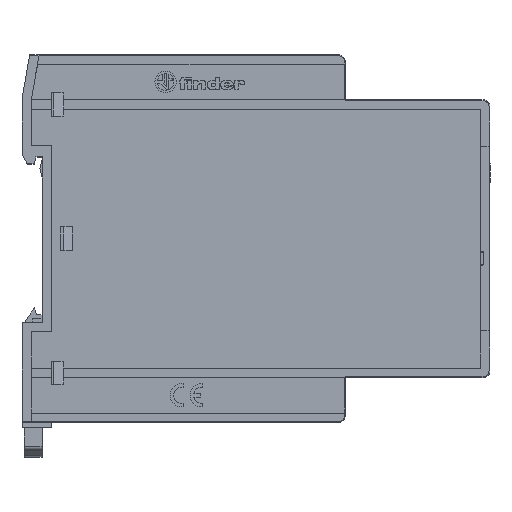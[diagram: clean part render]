
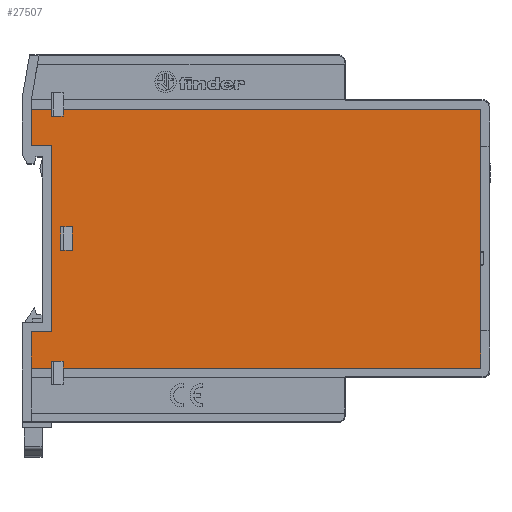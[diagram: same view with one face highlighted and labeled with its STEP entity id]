
A CAD part, top view. The second image highlights one B-rep face of the part: STEP entity #27507.
In plain terms, the highlighted planar face has unit normal (0, 0, 1).
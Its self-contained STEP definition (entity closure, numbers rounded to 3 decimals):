
#1403=ORIENTED_EDGE('',*,*,#7820,.F.);
#1404=ORIENTED_EDGE('',*,*,#7821,.T.);
#1405=ORIENTED_EDGE('',*,*,#7822,.F.);
#1406=ORIENTED_EDGE('',*,*,#7823,.T.);
#1407=ORIENTED_EDGE('',*,*,#7824,.F.);
#1408=ORIENTED_EDGE('',*,*,#7825,.T.);
#1409=ORIENTED_EDGE('',*,*,#7826,.F.);
#1410=ORIENTED_EDGE('',*,*,#7827,.T.);
#1411=ORIENTED_EDGE('',*,*,#7828,.F.);
#1412=ORIENTED_EDGE('',*,*,#7829,.T.);
#1413=ORIENTED_EDGE('',*,*,#7830,.F.);
#1414=ORIENTED_EDGE('',*,*,#7831,.T.);
#1415=ORIENTED_EDGE('',*,*,#7817,.T.);
#1416=ORIENTED_EDGE('',*,*,#7832,.T.);
#1417=ORIENTED_EDGE('',*,*,#7833,.F.);
#1418=ORIENTED_EDGE('',*,*,#7834,.F.);
#1419=ORIENTED_EDGE('',*,*,#7835,.T.);
#1420=ORIENTED_EDGE('',*,*,#7836,.F.);
#1421=ORIENTED_EDGE('',*,*,#7837,.F.);
#1422=ORIENTED_EDGE('',*,*,#7838,.F.);
#7817=EDGE_CURVE('',#12337,#12336,#15909,.T.);
#7820=EDGE_CURVE('',#12339,#12340,#15912,.T.);
#7821=EDGE_CURVE('',#12339,#12341,#15913,.T.);
#7822=EDGE_CURVE('',#12342,#12341,#15914,.T.);
#7823=EDGE_CURVE('',#12342,#12343,#15915,.T.);
#7824=EDGE_CURVE('',#12344,#12343,#15916,.T.);
#7825=EDGE_CURVE('',#12344,#12345,#15917,.T.);
#7826=EDGE_CURVE('',#12346,#12345,#15918,.T.);
#7827=EDGE_CURVE('',#12346,#12347,#15919,.T.);
#7828=EDGE_CURVE('',#12348,#12347,#15920,.T.);
#7829=EDGE_CURVE('',#12348,#12349,#15921,.T.);
#7830=EDGE_CURVE('',#12350,#12349,#15922,.T.);
#7831=EDGE_CURVE('',#12350,#12337,#15923,.T.);
#7832=EDGE_CURVE('',#12336,#12351,#15924,.T.);
#7833=EDGE_CURVE('',#12352,#12351,#15925,.T.);
#7834=EDGE_CURVE('',#12340,#12352,#15926,.T.);
#7835=EDGE_CURVE('',#12353,#12354,#15927,.T.);
#7836=EDGE_CURVE('',#12355,#12354,#15928,.T.);
#7837=EDGE_CURVE('',#12356,#12355,#15929,.T.);
#7838=EDGE_CURVE('',#12353,#12356,#15930,.T.);
#12336=VERTEX_POINT('',#39380);
#12337=VERTEX_POINT('',#39382);
#12339=VERTEX_POINT('',#39388);
#12340=VERTEX_POINT('',#39389);
#12341=VERTEX_POINT('',#39391);
#12342=VERTEX_POINT('',#39393);
#12343=VERTEX_POINT('',#39395);
#12344=VERTEX_POINT('',#39397);
#12345=VERTEX_POINT('',#39399);
#12346=VERTEX_POINT('',#39401);
#12347=VERTEX_POINT('',#39403);
#12348=VERTEX_POINT('',#39405);
#12349=VERTEX_POINT('',#39407);
#12350=VERTEX_POINT('',#39409);
#12351=VERTEX_POINT('',#39412);
#12352=VERTEX_POINT('',#39414);
#12353=VERTEX_POINT('',#39417);
#12354=VERTEX_POINT('',#39418);
#12355=VERTEX_POINT('',#39420);
#12356=VERTEX_POINT('',#39422);
#15909=LINE('',#39381,#19986);
#15912=LINE('',#39387,#19989);
#15913=LINE('',#39390,#19990);
#15914=LINE('',#39392,#19991);
#15915=LINE('',#39394,#19992);
#15916=LINE('',#39396,#19993);
#15917=LINE('',#39398,#19994);
#15918=LINE('',#39400,#19995);
#15919=LINE('',#39402,#19996);
#15920=LINE('',#39404,#19997);
#15921=LINE('',#39406,#19998);
#15922=LINE('',#39408,#19999);
#15923=LINE('',#39410,#20000);
#15924=LINE('',#39411,#20001);
#15925=LINE('',#39413,#20002);
#15926=LINE('',#39415,#20003);
#15927=LINE('',#39416,#20004);
#15928=LINE('',#39419,#20005);
#15929=LINE('',#39421,#20006);
#15930=LINE('',#39423,#20007);
#19986=VECTOR('',#31850,1000.);
#19989=VECTOR('',#31855,1000.);
#19990=VECTOR('',#31856,1000.);
#19991=VECTOR('',#31857,1000.);
#19992=VECTOR('',#31858,1000.);
#19993=VECTOR('',#31859,1000.);
#19994=VECTOR('',#31860,1000.);
#19995=VECTOR('',#31861,1000.);
#19996=VECTOR('',#31862,1000.);
#19997=VECTOR('',#31863,1000.);
#19998=VECTOR('',#31864,1000.);
#19999=VECTOR('',#31865,1000.);
#20000=VECTOR('',#31866,1000.);
#20001=VECTOR('',#31867,1000.);
#20002=VECTOR('',#31868,1000.);
#20003=VECTOR('',#31869,1000.);
#20004=VECTOR('',#31870,1000.);
#20005=VECTOR('',#31871,1000.);
#20006=VECTOR('',#31872,1000.);
#20007=VECTOR('',#31873,1000.);
#23856=EDGE_LOOP('',(#1403,#1404,#1405,#1406,#1407,#1408,#1409,#1410,#1411,
#1412,#1413,#1414,#1415,#1416,#1417,#1418));
#23857=EDGE_LOOP('',(#1419,#1420,#1421,#1422));
#25162=FACE_BOUND('',#23856,.T.);
#25163=FACE_BOUND('',#23857,.T.);
#26447=PLANE('',#29682);
#27507=ADVANCED_FACE('',(#25162,#25163),#26447,.T.);
#29682=AXIS2_PLACEMENT_3D('',#39386,#31853,#31854);
#31850=DIRECTION('',(0.,1.,0.));
#31853=DIRECTION('',(0.,0.,1.));
#31854=DIRECTION('',(1.,0.,0.));
#31855=DIRECTION('',(0.,-1.,0.));
#31856=DIRECTION('',(-1.,0.,0.));
#31857=DIRECTION('',(0.,1.,0.));
#31858=DIRECTION('',(1.,0.,0.));
#31859=DIRECTION('',(0.,1.,0.));
#31860=DIRECTION('',(-1.,0.,0.));
#31861=DIRECTION('',(0.,1.,0.));
#31862=DIRECTION('',(1.,0.,0.));
#31863=DIRECTION('',(0.,-1.,0.));
#31864=DIRECTION('',(1.,0.,0.));
#31865=DIRECTION('',(0.,1.,0.));
#31866=DIRECTION('',(1.,0.,0.));
#31867=DIRECTION('',(-1.,0.,0.));
#31868=DIRECTION('',(0.,1.,0.));
#31869=DIRECTION('',(1.,0.,0.));
#31870=DIRECTION('',(1.,0.,0.));
#31871=DIRECTION('',(0.,1.,0.));
#31872=DIRECTION('',(1.,0.,0.));
#31873=DIRECTION('',(0.,-1.,0.));
#39380=CARTESIAN_POINT('',(48.,27.75,22.5));
#39381=CARTESIAN_POINT('',(48.,-27.75,22.5));
#39382=CARTESIAN_POINT('',(48.,-27.75,22.5));
#39386=CARTESIAN_POINT('',(-50.188,28.787,22.5));
#39387=CARTESIAN_POINT('',(-44.,27.75,22.5));
#39388=CARTESIAN_POINT('',(-44.,27.75,22.5));
#39389=CARTESIAN_POINT('',(-44.,26.25,22.5));
#39390=CARTESIAN_POINT('',(-43.243,27.75,22.5));
#39391=CARTESIAN_POINT('',(-48.3,27.75,22.5));
#39392=CARTESIAN_POINT('',(-48.3,20.,22.5));
#39393=CARTESIAN_POINT('',(-48.3,20.,22.5));
#39394=CARTESIAN_POINT('',(-48.3,20.,22.5));
#39395=CARTESIAN_POINT('',(-44.,20.,22.5));
#39396=CARTESIAN_POINT('',(-44.,-20.,22.5));
#39397=CARTESIAN_POINT('',(-44.,-20.,22.5));
#39398=CARTESIAN_POINT('',(-44.,-20.,22.5));
#39399=CARTESIAN_POINT('',(-48.3,-20.,22.5));
#39400=CARTESIAN_POINT('',(-48.3,-27.75,22.5));
#39401=CARTESIAN_POINT('',(-48.3,-27.75,22.5));
#39402=CARTESIAN_POINT('',(-48.3,-27.75,22.5));
#39403=CARTESIAN_POINT('',(-44.,-27.75,22.5));
#39404=CARTESIAN_POINT('',(-44.,-26.25,22.5));
#39405=CARTESIAN_POINT('',(-44.,-26.25,22.5));
#39406=CARTESIAN_POINT('',(-44.,-26.25,22.5));
#39407=CARTESIAN_POINT('',(-41.5,-26.25,22.5));
#39408=CARTESIAN_POINT('',(-41.5,-27.75,22.5));
#39409=CARTESIAN_POINT('',(-41.5,-27.75,22.5));
#39410=CARTESIAN_POINT('',(-41.5,-27.75,22.5));
#39411=CARTESIAN_POINT('',(48.,27.75,22.5));
#39412=CARTESIAN_POINT('',(-41.5,27.75,22.5));
#39413=CARTESIAN_POINT('',(-41.5,26.25,22.5));
#39414=CARTESIAN_POINT('',(-41.5,26.25,22.5));
#39415=CARTESIAN_POINT('',(-44.,26.25,22.5));
#39416=CARTESIAN_POINT('',(-42.,2.5,22.5));
#39417=CARTESIAN_POINT('',(-42.,2.5,22.5));
#39418=CARTESIAN_POINT('',(-39.5,2.5,22.5));
#39419=CARTESIAN_POINT('',(-39.5,-2.5,22.5));
#39420=CARTESIAN_POINT('',(-39.5,-2.5,22.5));
#39421=CARTESIAN_POINT('',(-42.,-2.5,22.5));
#39422=CARTESIAN_POINT('',(-42.,-2.5,22.5));
#39423=CARTESIAN_POINT('',(-42.,2.5,22.5));
